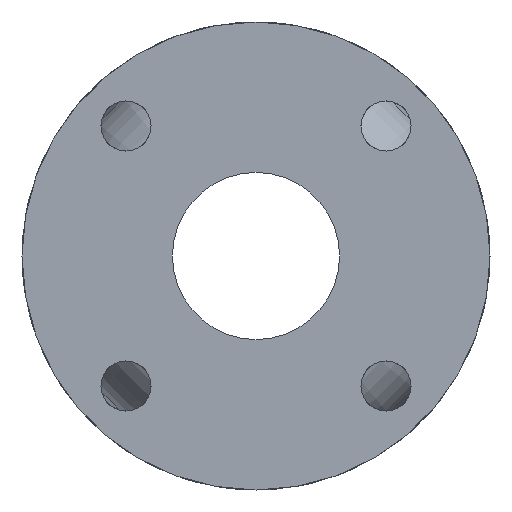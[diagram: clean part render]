
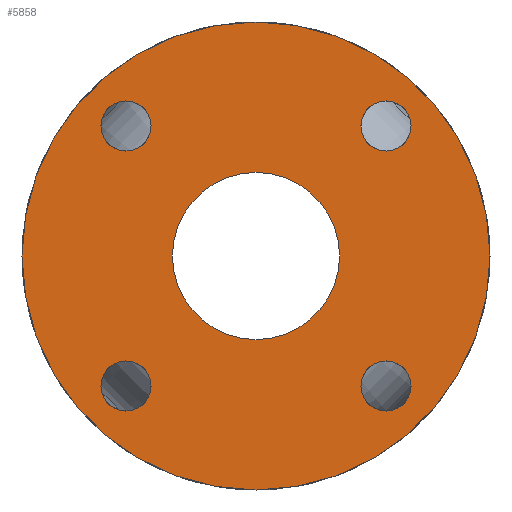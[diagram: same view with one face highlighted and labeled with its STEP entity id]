
A CAD part, left-side view. The second image highlights one B-rep face of the part: STEP entity #5858.
In plain terms, the highlighted planar face has unit normal (-1, 0, 0) as drawn and (1, 0, 0) by its records, which use the part's own axes.
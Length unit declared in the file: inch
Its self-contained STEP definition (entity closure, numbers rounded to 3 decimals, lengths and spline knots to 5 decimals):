
#5255=CARTESIAN_POINT('',(5.,1.56954,1.94454));
#5256=VERTEX_POINT('',#5255);
#5257=CARTESIAN_POINT('',(5.,1.94454,1.94454));
#5258=DIRECTION('',(-1.0,0.0,0.0));
#5259=DIRECTION('',(0.0,1.0,0.0));
#5260=AXIS2_PLACEMENT_3D('',#5257,#5258,#5259);
#5261=CIRCLE('',#5260,0.375);
#5262=EDGE_CURVE('',#5256,#5256,#5261,.T.);
#5283=CARTESIAN_POINT('',(5.,1.94454,-1.56954));
#5284=VERTEX_POINT('',#5283);
#5285=CARTESIAN_POINT('',(5.,1.94454,-1.94454));
#5286=DIRECTION('',(-1.0,0.0,0.0));
#5287=DIRECTION('',(0.0,0.0,-1.0));
#5288=AXIS2_PLACEMENT_3D('',#5285,#5286,#5287);
#5289=CIRCLE('',#5288,0.375);
#5290=EDGE_CURVE('',#5284,#5284,#5289,.T.);
#5311=CARTESIAN_POINT('',(5.,-1.56954,-1.94454));
#5312=VERTEX_POINT('',#5311);
#5313=CARTESIAN_POINT('',(5.,-1.94454,-1.94454));
#5314=DIRECTION('',(-1.0,0.0,0.0));
#5315=DIRECTION('',(0.0,-1.0,0.0));
#5316=AXIS2_PLACEMENT_3D('',#5313,#5314,#5315);
#5317=CIRCLE('',#5316,0.375);
#5318=EDGE_CURVE('',#5312,#5312,#5317,.T.);
#5339=CARTESIAN_POINT('',(5.,-1.94454,1.56954));
#5340=VERTEX_POINT('',#5339);
#5341=CARTESIAN_POINT('',(5.,-1.94454,1.94454));
#5342=DIRECTION('',(-1.0,0.0,0.0));
#5343=DIRECTION('',(0.0,0.0,1.0));
#5344=AXIS2_PLACEMENT_3D('',#5341,#5342,#5343);
#5345=CIRCLE('',#5344,0.375);
#5346=EDGE_CURVE('',#5340,#5340,#5345,.T.);
#5812=CARTESIAN_POINT('',(5.,3.5,0.0));
#5813=VERTEX_POINT('',#5812);
#5814=CARTESIAN_POINT('',(5.,0.0,0.0));
#5815=DIRECTION('',(1.0,0.0,0.0));
#5816=DIRECTION('',(0.0,1.0,0.0));
#5817=AXIS2_PLACEMENT_3D('',#5814,#5815,#5816);
#5818=CIRCLE('',#5817,3.5);
#5819=EDGE_CURVE('',#5813,#5813,#5818,.T.);
#5827=CARTESIAN_POINT('',(5.,2.3125,0.0));
#5828=DIRECTION('',(1.0,0.0,0.0));
#5829=DIRECTION('',(0.0,0.0,-1.0));
#5830=AXIS2_PLACEMENT_3D('',#5827,#5828,#5829);
#5831=PLANE('',#5830);
#5832=ORIENTED_EDGE('',*,*,#5819,.T.);
#5833=EDGE_LOOP('',(#5832));
#5834=FACE_OUTER_BOUND('',#5833,.T.);
#5835=ORIENTED_EDGE('',*,*,#5262,.T.);
#5836=EDGE_LOOP('',(#5835));
#5837=FACE_BOUND('',#5836,.T.);
#5838=ORIENTED_EDGE('',*,*,#5290,.T.);
#5839=EDGE_LOOP('',(#5838));
#5840=FACE_BOUND('',#5839,.T.);
#5841=ORIENTED_EDGE('',*,*,#5318,.T.);
#5842=EDGE_LOOP('',(#5841));
#5843=FACE_BOUND('',#5842,.T.);
#5844=ORIENTED_EDGE('',*,*,#5346,.T.);
#5845=EDGE_LOOP('',(#5844));
#5846=FACE_BOUND('',#5845,.T.);
#5847=CARTESIAN_POINT('',(5.,1.25,0.0));
#5848=VERTEX_POINT('',#5847);
#5849=CARTESIAN_POINT('',(5.,0.0,0.0));
#5850=DIRECTION('',(1.0,0.0,0.0));
#5851=DIRECTION('',(0.0,1.0,0.0));
#5852=AXIS2_PLACEMENT_3D('',#5849,#5850,#5851);
#5853=CIRCLE('',#5852,1.25);
#5854=EDGE_CURVE('',#5848,#5848,#5853,.T.);
#5855=ORIENTED_EDGE('',*,*,#5854,.F.);
#5856=EDGE_LOOP('',(#5855));
#5857=FACE_BOUND('',#5856,.T.);
#5858=ADVANCED_FACE('',(#5834,#5837,#5840,#5843,#5846,#5857),#5831,.T.);
